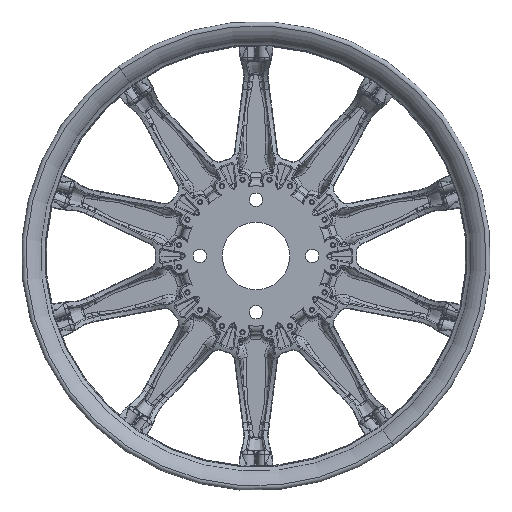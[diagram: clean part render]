
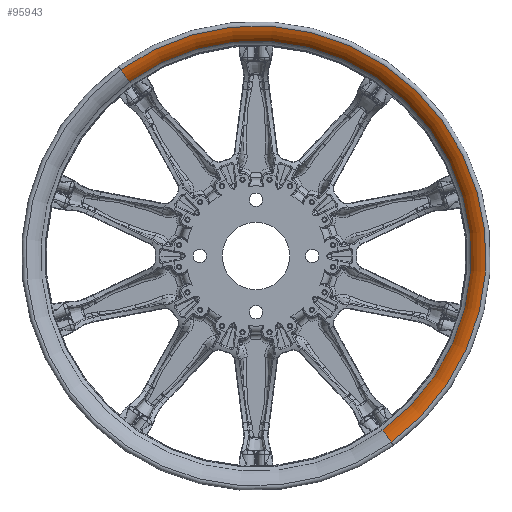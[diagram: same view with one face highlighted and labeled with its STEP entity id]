
A CAD part, top view. The second image highlights one B-rep face of the part: STEP entity #95943.
In plain terms, the highlighted toroidal (fillet/blend) face has major radius 211.483 mm and minor radius 24.576 mm.
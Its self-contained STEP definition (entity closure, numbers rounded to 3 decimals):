
#1227 = CIRCLE ( 'NONE', #114545, 191.514 ) ;
#4719 = EDGE_CURVE ( 'NONE', #161717, #35944, #118264, .T. ) ;
#11858 = CARTESIAN_POINT ( 'NONE',  ( 0., -186.972, 0. ) ) ;
#12458 = CIRCLE ( 'NONE', #161677, 24.576 ) ;
#17253 = DIRECTION ( 'NONE',  ( -1., 0., 0. ) ) ;
#17257 = DIRECTION ( 'NONE',  ( 0., -1., 0. ) ) ;
#18557 = VERTEX_POINT ( 'NONE', #117687 ) ;
#35944 = VERTEX_POINT ( 'NONE', #74265 ) ;
#42388 = CARTESIAN_POINT ( 'NONE',  ( -23.604, -186.972, 204.638 ) ) ;
#50221 = VERTEX_POINT ( 'NONE', #42388 ) ;
#55366 = DIRECTION ( 'NONE',  ( 0., 0., 1. ) ) ;
#60154 = ORIENTED_EDGE ( 'NONE', *, *, #147614, .T. ) ;
#65317 = ORIENTED_EDGE ( 'NONE', *, *, #4719, .T. ) ;
#70039 = DIRECTION ( 'NONE',  ( 0., 0., -1. ) ) ;
#74265 = CARTESIAN_POINT ( 'NONE',  ( -14.325, -186.972, -191.514 ) ) ;
#74867 = CARTESIAN_POINT ( 'NONE',  ( -23.604, -186.972, 0. ) ) ;
#91449 = DIRECTION ( 'NONE',  ( 0., 0., 1. ) ) ;
#95205 = ORIENTED_EDGE ( 'NONE', *, *, #103587, .F. ) ;
#95943 = ADVANCED_FACE ( 'NONE', ( #103614 ), #128481, .T. ) ;
#97398 = EDGE_CURVE ( 'NONE', #50221, #18557, #12458, .T. ) ;
#98495 = CIRCLE ( 'NONE', #145449, 204.638 ) ;
#103587 = EDGE_CURVE ( 'NONE', #18557, #35944, #1227, .T. ) ;
#103614 = FACE_OUTER_BOUND ( 'NONE', #141234, .T. ) ;
#105377 = CARTESIAN_POINT ( 'NONE',  ( -23.604, -186.972, -204.638 ) ) ;
#107263 = AXIS2_PLACEMENT_3D ( 'NONE', #138329, #124487, #140930 ) ;
#108475 = DIRECTION ( 'NONE',  ( -1., 0., 0. ) ) ;
#111571 = CARTESIAN_POINT ( 'NONE',  ( 0., -186.972, 211.483 ) ) ;
#114545 = AXIS2_PLACEMENT_3D ( 'NONE', #162639, #17253, #55366 ) ;
#117687 = CARTESIAN_POINT ( 'NONE',  ( -14.325, -186.972, 191.514 ) ) ;
#118264 = CIRCLE ( 'NONE', #107263, 24.576 ) ;
#124487 = DIRECTION ( 'NONE',  ( 0., 1., 0. ) ) ;
#124801 = ORIENTED_EDGE ( 'NONE', *, *, #97398, .F. ) ;
#128481 = TOROIDAL_SURFACE ( 'NONE', #131164, 211.483, 24.576 ) ;
#131164 = AXIS2_PLACEMENT_3D ( 'NONE', #11858, #108475, #91449 ) ;
#138329 = CARTESIAN_POINT ( 'NONE',  ( 0., -186.972, -211.483 ) ) ;
#140930 = DIRECTION ( 'NONE',  ( 0., 0., 1. ) ) ;
#141234 = EDGE_LOOP ( 'NONE', ( #60154, #65317, #95205, #124801 ) ) ;
#145449 = AXIS2_PLACEMENT_3D ( 'NONE', #74867, #155325, #167468 ) ;
#147614 = EDGE_CURVE ( 'NONE', #50221, #161717, #98495, .T. ) ;
#155325 = DIRECTION ( 'NONE',  ( -1., 0., 0. ) ) ;
#161677 = AXIS2_PLACEMENT_3D ( 'NONE', #111571, #17257, #70039 ) ;
#161717 = VERTEX_POINT ( 'NONE', #105377 ) ;
#162639 = CARTESIAN_POINT ( 'NONE',  ( -14.325, -186.972, 0. ) ) ;
#167468 = DIRECTION ( 'NONE',  ( 0., 0., 1. ) ) ;
